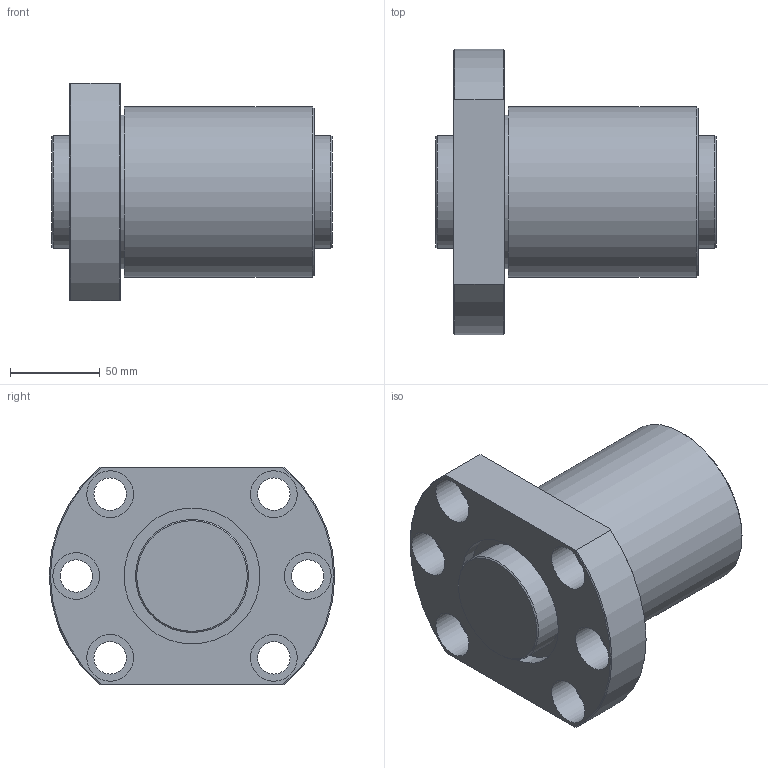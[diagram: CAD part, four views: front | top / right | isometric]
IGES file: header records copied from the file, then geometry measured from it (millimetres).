
Start section: Data from Parasolid IGES Translator 26.0.171, Copyright(c) 2006 Siemens PLM Software. All Rights Reserved.
Global section: file name: DK6320-3RRG1+156LC0_000.igs; native system: By Siemens PLM Incorporated; preprocessor: XPlus GENERIC/IGES 26.0.171; author: Noname; organization: Noname; date: 20250113.093226; units: millimetre
Bounding box: 156 x 159 x 121 mm (x, y, z)
Surface area: 150834 mm2 (no closed solid volume)
Topology: 0 solids, 0 shells, 46 faces, 200 edges, 178 vertices
Faces by surface type: revolution 30, extrusion 16
